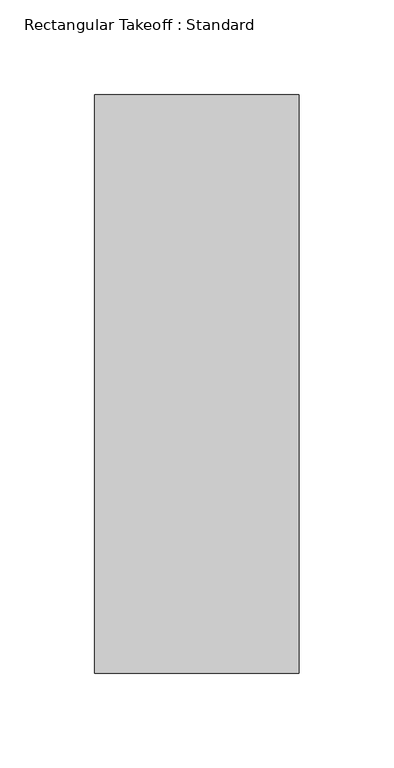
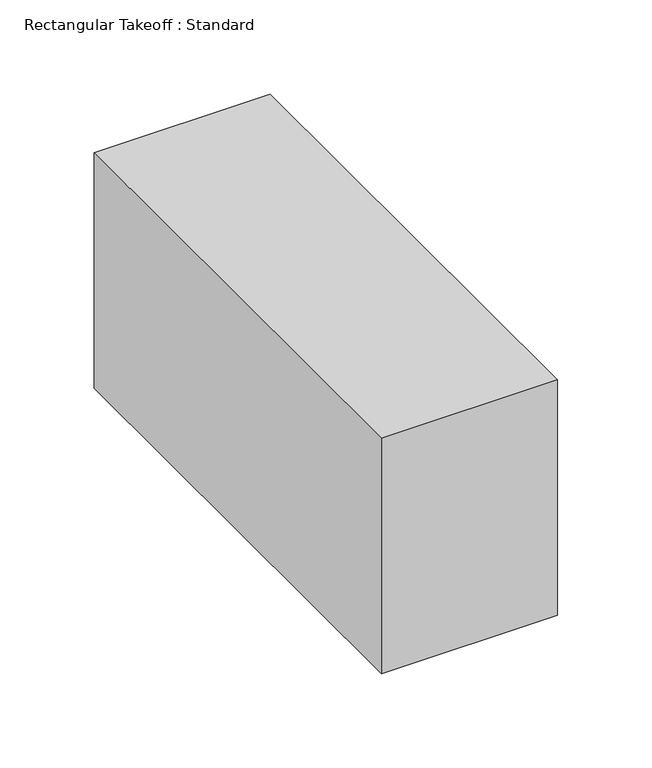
"""IFC4 building model written with IfcOpenShell, lengths in millimetres: duct fitting geometry, Rectangular Takeoff : Standard."""

import ifcopenshell
import ifcopenshell.guid

model = None  # the IFC model being written
_history = None  # IfcOwnerHistory: only IFC2X3 demands one
_inside = {}  # id of a spatial element -> (the spatial element, [elements in it])
_under = {}  # id of a project, library or spatial element -> (it, [spatial elements below it])
_declared = {}  # id of a project -> (the project, [libraries it declares])
_typed = {}  # id of a type object -> (the type object, [elements of that type])
_made_of = {}  # id of a material, layer set ... -> (it, [elements and type objects made of it])


def new_model(schema):
    """Start an empty IFC model of exactly this schema.

    Asked for "IFC4X3", IfcOpenShell would pick the latest addendum, in which some entities
    have other attributes; the version numbers below select the first issue.
    IFC2X3 requires an IfcOwnerHistory on every rooted entity: one is made here for all.
    """
    global model, _history
    if schema == "IFC4X3":
        model = ifcopenshell.file(schema_version=(4, 3, 0, 0))
    else:
        model = ifcopenshell.file(schema=schema)
    _inside.clear()
    _under.clear()
    _declared.clear()
    _typed.clear()
    _made_of.clear()
    _history = None
    if model.schema == "IFC2X3":
        org = make("IfcOrganization", Name="unknown")
        user = make(
            "IfcPersonAndOrganization",
            ThePerson=make("IfcPerson", FamilyName="unknown"),
            TheOrganization=org,
        )
        app = make(
            "IfcApplication",
            ApplicationDeveloper=org,
            Version="unknown",
            ApplicationFullName="unknown",
            ApplicationIdentifier="unknown",
        )
        _history = make(
            "IfcOwnerHistory",
            OwningUser=user,
            OwningApplication=app,
            ChangeAction="ADDED",
            CreationDate=0,
        )
    return model


def make(cls, **values):
    """One entity of the class cls with the attributes given. An attribute that is None is left unset."""
    return model.create_entity(
        cls, **{name: value for name, value in values.items() if value is not None}
    )


def rooted(cls, **values):
    """An entity with a GlobalId (a new one), such as an element, a storey or a relation."""
    return make(cls, GlobalId=ifcopenshell.guid.new(), OwnerHistory=_history, **values)


def si_unit(unit_type, name, prefix=None):
    """IfcSIUnit, for example si_unit("LENGTHUNIT", "METRE", prefix="MILLI")."""
    return make("IfcSIUnit", UnitType=unit_type, Prefix=prefix, Name=name)


def assignment(units):
    """IfcUnitAssignment: the units of a project."""
    return None if units is None else make("IfcUnitAssignment", Units=units)


def point(xyz):
    """IfcCartesianPoint."""
    return None if xyz is None else make("IfcCartesianPoint", Coordinates=xyz)


def direction(xyz):
    """IfcDirection."""
    return None if xyz is None else make("IfcDirection", DirectionRatios=xyz)


def frame(location, z_axis=None, x_axis=None):
    """IfcAxis2Placement3D, a coordinate frame: its origin and axes. An axis left out is left unset."""
    return make(
        "IfcAxis2Placement3D",
        Location=point(location),
        Axis=direction(z_axis),
        RefDirection=direction(x_axis),
    )


def origin():
    """The frame at (0, 0, 0) with its axes left unset."""
    return frame((0.0, 0.0, 0.0))


def place(relative_to, where):
    """IfcLocalPlacement: puts the frame where relative to a parent placement (None: the world)."""
    return make(
        "IfcLocalPlacement", PlacementRelTo=relative_to, RelativePlacement=where
    )


def context(
    kind, dimensions, precision=None, world=None, true_north=None, identifier=None
):
    """IfcGeometricRepresentationContext, for example the 3D "Model" context."""
    return make(
        "IfcGeometricRepresentationContext",
        ContextIdentifier=identifier,
        ContextType=kind,
        CoordinateSpaceDimension=dimensions,
        Precision=precision,
        WorldCoordinateSystem=world,
        TrueNorth=true_north,
    )


def project(units=None, contexts=None):
    """IfcProject with its units and contexts."""
    return rooted(
        "IfcProject",
        Name="project",
        RepresentationContexts=contexts,
        UnitsInContext=assignment(units),
    )


def spatial(cls, under=None, at=None, **own):
    """A site, building, storey or space (cls), placed at a placement, below another one or the project."""
    s = rooted(cls, ObjectPlacement=at, **own)
    if under is not None:
        _under.setdefault(under.id(), (under, []))[1].append(s)
    return s


def polyline(points):
    """IfcPolyline through the points."""
    return make("IfcPolyline", Points=[point(p) for p in points])


def outline(outer, holes=None, kind="AREA"):
    """IfcArbitraryClosedProfileDef: a profile drawn as a closed curve; with holes, ...WithVoids."""
    if holes is None:
        return make("IfcArbitraryClosedProfileDef", ProfileType=kind, OuterCurve=outer)
    return make(
        "IfcArbitraryProfileDefWithVoids",
        ProfileType=kind,
        OuterCurve=outer,
        InnerCurves=holes,
    )


def extrude(swept, where, along, depth):
    """IfcExtrudedAreaSolid: the profile swept, set in the frame where, extruded along a direction by depth."""
    return make(
        "IfcExtrudedAreaSolid",
        SweptArea=swept,
        Position=where,
        ExtrudedDirection=direction(along),
        Depth=depth,
    )


def shape(context_of_items, identifier, shape_type, items):
    """IfcShapeRepresentation: the items that make up one representation, for example the "Body"."""
    return make(
        "IfcShapeRepresentation",
        ContextOfItems=context_of_items,
        RepresentationIdentifier=identifier,
        RepresentationType=shape_type,
        Items=items,
    )


def source(mapping_origin, context_of_items, identifier, shape_type, items):
    """IfcRepresentationMap: a shape defined once, which mapped items show again and again."""
    return make(
        "IfcRepresentationMap",
        MappingOrigin=mapping_origin,
        MappedRepresentation=shape(context_of_items, identifier, shape_type, items),
    )


def transform(
    local_origin,
    x_axis=None,
    y_axis=None,
    z_axis=None,
    scale=None,
    scale2=None,
    scale3=None,
    uniform=True,
):
    """IfcCartesianTransformationOperator3D, or its non-uniform kind. x_axis, y_axis, z_axis: its Axis1, 2, 3."""
    if uniform:
        return make(
            "IfcCartesianTransformationOperator3D",
            Axis1=direction(x_axis),
            Axis2=direction(y_axis),
            LocalOrigin=point(local_origin),
            Scale=scale,
            Axis3=direction(z_axis),
        )
    return make(
        "IfcCartesianTransformationOperator3DnonUniform",
        Axis1=direction(x_axis),
        Axis2=direction(y_axis),
        LocalOrigin=point(local_origin),
        Scale=scale,
        Axis3=direction(z_axis),
        Scale2=scale2,
        Scale3=scale3,
    )


def mapped(mapping_source, mapping_target):
    """IfcMappedItem: shows the shape of a source again, moved by a transform."""
    return make(
        "IfcMappedItem", MappingSource=mapping_source, MappingTarget=mapping_target
    )


def made_of(thing, what):
    """Note that an element or type object is made of a material, layer set ...; save() writes the relation."""
    if what is not None:
        _made_of.setdefault(what.id(), (what, []))[1].append(thing)
    return thing


def element(
    cls,
    number,
    at=None,
    inside=None,
    cuts=None,
    type_object=None,
    material=None,
    context=None,
    identifier="Body",
    shape_type=None,
    held_by="IfcProductDefinitionShape",
    body=None,
    shapes=None,
    **own,
):
    """One element of the class cls, such as IfcWall. Its Tag is "e" and its number.

    at: its placement. inside: the storey or other place that contains it. cuts: it is an
    opening in that element (IfcRelVoidsElement). A single representation is given by context,
    identifier, shape_type and body (its items); several are given by shapes. held_by: the class
    of the entity that holds the representations. save() writes the other relations.
    """
    e = rooted(cls, Tag="e%d" % number, ObjectPlacement=at, **own)
    if body is not None:
        shapes = [shape(context, identifier, shape_type, body)]
    if shapes is not None:
        e.Representation = make(held_by, Representations=shapes)
    if inside is not None:
        _inside.setdefault(inside.id(), (inside, []))[1].append(e)
    if cuts is not None:
        rooted(
            "IfcRelVoidsElement", RelatingBuildingElement=cuts, RelatedOpeningElement=e
        )
    if type_object is not None:
        _typed.setdefault(type_object.id(), (type_object, []))[1].append(e)
    return made_of(e, material)


def aggregate(whole, parts):
    """IfcRelAggregates: a whole, such as a stair, and the parts it consists of."""
    return rooted("IfcRelAggregates", RelatingObject=whole, RelatedObjects=parts)


def save(model, path):
    """Write the relations noted so far, then the file.

    IfcRelAggregates (storeys below a building ...), IfcRelContainedInSpatialStructure (elements
    in a storey), IfcRelDefinesByType, IfcRelAssociatesMaterial and IfcRelDeclares: one each for
    every whole, place, type object, material and project.
    """
    for whole, parts in _under.values():
        aggregate(whole, parts)
    for where, things in _inside.values():
        rooted(
            "IfcRelContainedInSpatialStructure",
            RelatedElements=things,
            RelatingStructure=where,
        )
    for kind, things in _typed.values():
        rooted("IfcRelDefinesByType", RelatedObjects=things, RelatingType=kind)
    for what, things in _made_of.values():
        rooted("IfcRelAssociatesMaterial", RelatedObjects=things, RelatingMaterial=what)
    for by, libraries in _declared.values():
        rooted("IfcRelDeclares", RelatingContext=by, RelatedDefinitions=libraries)
    model.write(path)


def rectangular_takeoff_standard_fde45e03(model_context):
    return source(origin(), model_context, "Body", "SweptSolid", [
        extrude(outline(polyline([(-6.096, -152.4), (-6.096, 152.4), (101.6, 152.4), (101.6, -152.4), (-6.096, -152.4)])), frame((0.0, 0.0, -76.2), z_axis=(0.0, 0.0, 1.0), x_axis=(1.0, 0.0, 0.0)), (0.0, 0.0, 1.0), 152.4),
    ])


if __name__ == "__main__":
    model = new_model("IFC4")
    model_context = context("Model", 3, world=origin())
    ifc_project = project(units=[si_unit("LENGTHUNIT", "METRE", prefix="MILLI")], contexts=[model_context])
    site = spatial("IfcSite", under=ifc_project)
    building = spatial("IfcBuilding", under=site)
    placement = place(None, origin())
    rectangular_takeoff_standard_shape = rectangular_takeoff_standard_fde45e03(model_context)
    element("IfcDuctFitting", 1, ObjectType="Rectangular Takeoff : Standard", at=placement, inside=building, context=model_context, shape_type="MappedRepresentation", body=[
        mapped(rectangular_takeoff_standard_shape, transform((0.0, 0.0, 0.0), x_axis=(1.0, 0.0, 0.0), y_axis=(0.0, 1.0, 0.0), z_axis=(0.0, 0.0, 1.0))),
    ])
    save(model, "model.ifc")
